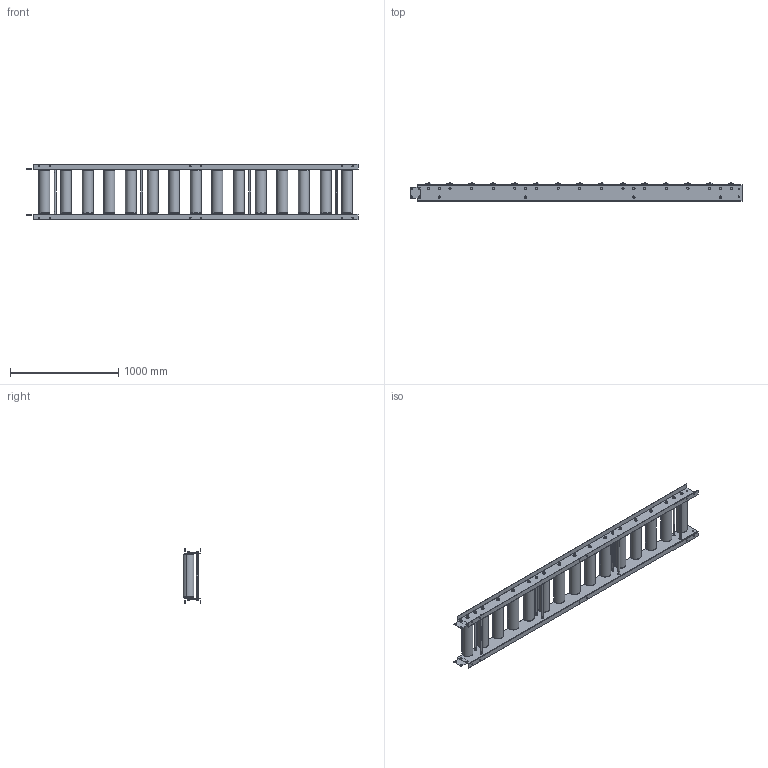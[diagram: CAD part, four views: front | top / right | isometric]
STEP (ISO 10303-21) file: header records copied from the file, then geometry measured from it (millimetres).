
FILE_DESCRIPTION (( 'STEP AP203' ), '1' );
FILE_NAME ('RB-10142.step', '2024-02-20T11:17:30', ( '' ), ( '' ), 'SwSTEP 2.0', 'SolidWorks 2023', '' );
FILE_SCHEMA (( 'CONFIG_CONTROL_DESIGN' ));
Length unit declared in the file: millimetre
Products named in the file (1): RB-10142
Bounding box: 3070 x 166.22 x 515 mm (x, y, z)
Volume: 55874905.1 mm3; surface area: 6261819.7 mm2
Topology: 74 solids, 74 shells, 988 faces, 2194 edges, 1400 vertices
Faces by surface type: cylinder 425, plane 407, cone 96, torus 60
Entity records: 28637 total; most frequent: CARTESIAN_POINT 5927, DIRECTION 5012, ORIENTED_EDGE 4388, EDGE_CURVE 2194, AXIS2_PLACEMENT_3D 2085, VERTEX_POINT 1400, EDGE_LOOP 1228, CIRCLE 1096
